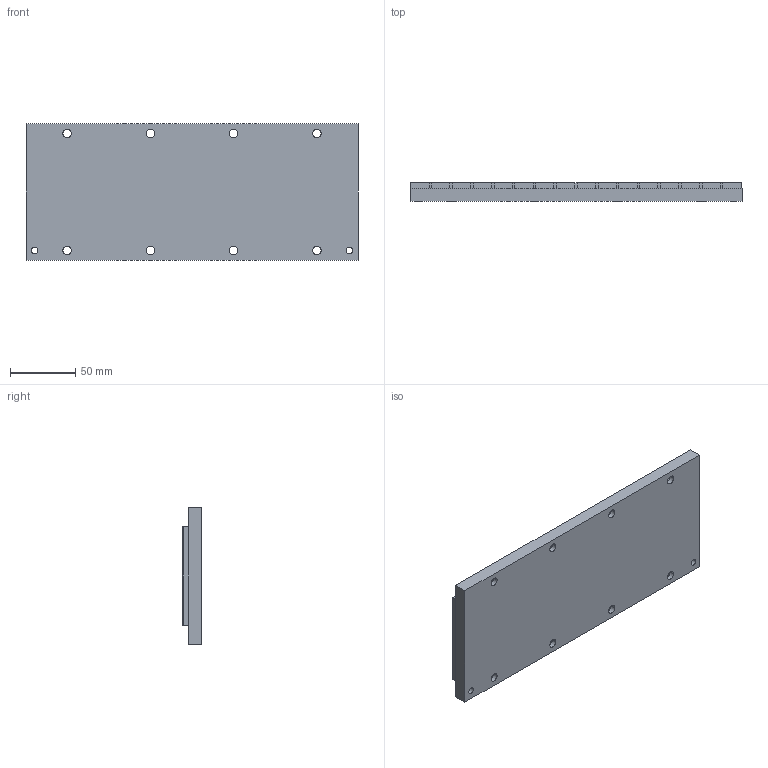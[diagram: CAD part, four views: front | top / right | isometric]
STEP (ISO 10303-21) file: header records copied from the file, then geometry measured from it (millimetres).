
FILE_DESCRIPTION((''),'2;1');
FILE_NAME('MC075-0256-WC','2007-01-14T',('saurabh.singhal'),(''),'PRO/ENGINEER BY PARAMETRIC TECHNOLOGY CORPORATION, 2005450','PRO/ENGINEER BY PARAMETRIC TECHNOLOGY CORPORATION, 2005450','');
FILE_SCHEMA(('CONFIG_CONTROL_DESIGN'));
Length unit declared in the file: millimetre
Products named in the file (1): MC075-0256-WC
Bounding box: 255.3 x 14.4 x 105 mm (x, y, z)
Volume: 336017.5 mm3; surface area: 117775.4 mm2
Topology: 1 solids, 1 shells, 138 faces, 336 edges, 224 vertices
Faces by surface type: plane 102, cylinder 36
Entity records: 4114 total; most frequent: CARTESIAN_POINT 698, DIRECTION 684, ORIENTED_EDGE 672, EDGE_CURVE 336, VECTOR 264, LINE 264, VERTEX_POINT 224, AXIS2_PLACEMENT_3D 210
